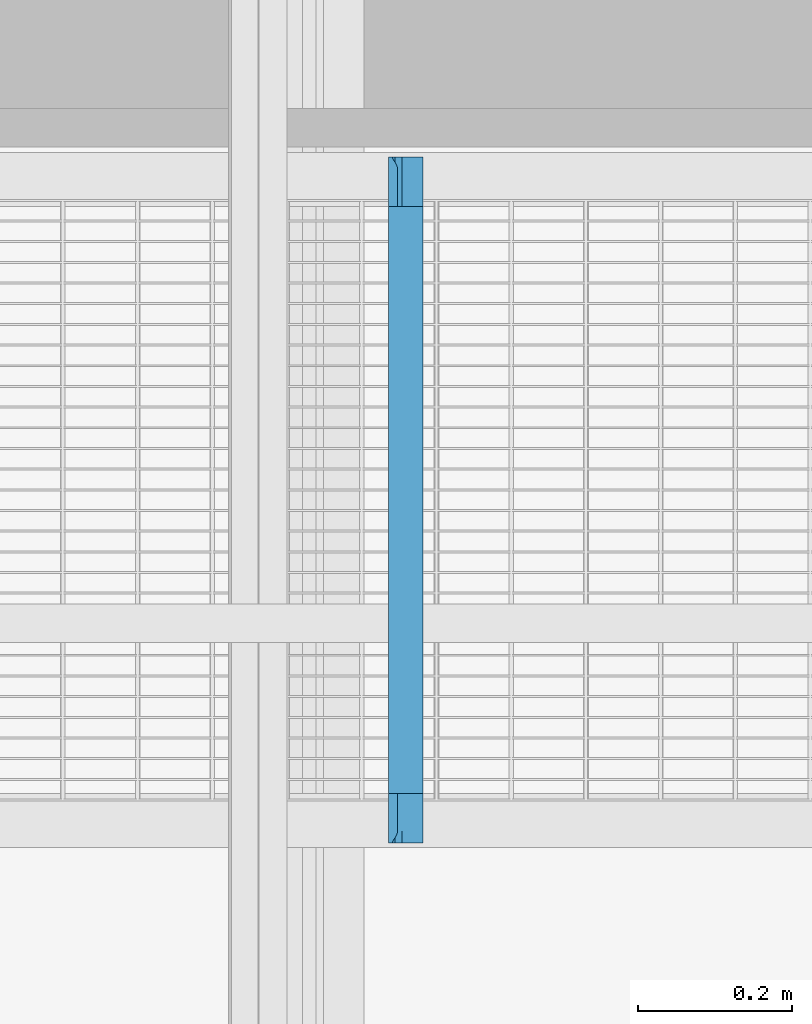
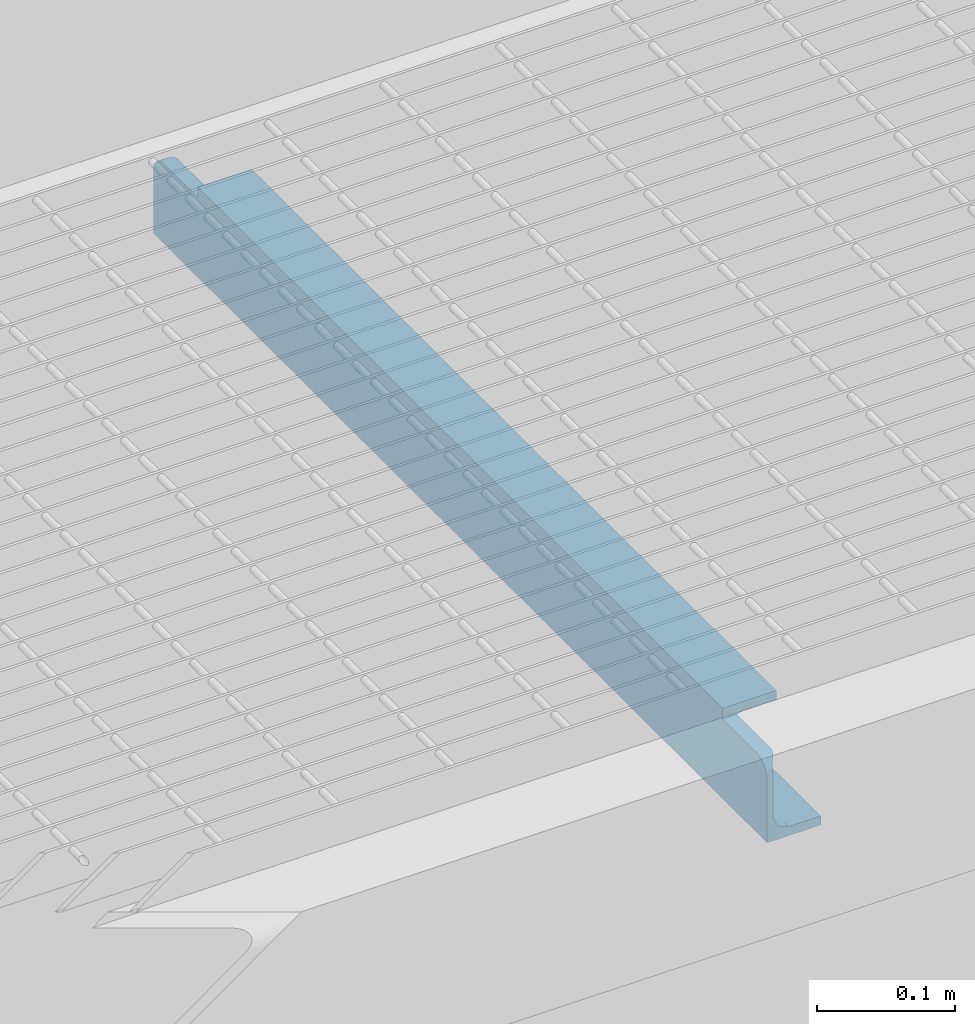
# One storey, part 52 of 75: 1 beam.
"""IFC2X3 building model written with IfcOpenShell, lengths in metres."""

from ifc_helpers import new_model, entity, si_unit, converted_unit, derived_unit, direction, frame, origin, place, context, subcontext, project, spatial, faceted_brep, material, type_object, element, save


model = new_model("IFC2X3")

# Units and contexts
model_context = context("Model", 3, precision=1e-05, world=origin(), true_north=direction((6.12303176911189e-17, 1.0)))
body_context = subcontext(model_context, "Body", "Model", "MODEL_VIEW")
ifc_project = project(units=[si_unit("LENGTHUNIT", "METRE"), si_unit("AREAUNIT", "SQUARE_METRE"), si_unit("VOLUMEUNIT", "CUBIC_METRE"), converted_unit("PLANEANGLEUNIT", "DEGREE", entity("IfcRatioMeasure", 0.0174532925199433), si_unit("PLANEANGLEUNIT", "RADIAN"), dimensions=[0, 0, 0, 0, 0, 0, 0]), si_unit("MASSUNIT", "GRAM", prefix="KILO"), derived_unit("MASSDENSITYUNIT", [(si_unit("MASSUNIT", "GRAM", prefix="KILO"), 1), (si_unit("LENGTHUNIT", "METRE"), -3)]), derived_unit("MOMENTOFINERTIAUNIT", [(si_unit("LENGTHUNIT", "METRE"), 4)]), si_unit("TIMEUNIT", "SECOND"), si_unit("FREQUENCYUNIT", "HERTZ"), si_unit("THERMODYNAMICTEMPERATUREUNIT", "DEGREE_CELSIUS"), derived_unit("THERMALTRANSMITTANCEUNIT", [(si_unit("MASSUNIT", "GRAM", prefix="KILO"), 1), (si_unit("THERMODYNAMICTEMPERATUREUNIT", "KELVIN"), -1), (si_unit("TIMEUNIT", "SECOND"), -3)]), derived_unit("VOLUMETRICFLOWRATEUNIT", [(si_unit("LENGTHUNIT", "METRE"), 3), (si_unit("TIMEUNIT", "SECOND"), -1)]), si_unit("ELECTRICCURRENTUNIT", "AMPERE"), si_unit("ELECTRICVOLTAGEUNIT", "VOLT"), si_unit("POWERUNIT", "WATT"), si_unit("FORCEUNIT", "NEWTON", prefix="KILO"), si_unit("ILLUMINANCEUNIT", "LUX"), si_unit("LUMINOUSFLUXUNIT", "LUMEN"), si_unit("LUMINOUSINTENSITYUNIT", "CANDELA"), derived_unit("USERDEFINED", [(si_unit("MASSUNIT", "GRAM", prefix="KILO"), -1), (si_unit("LENGTHUNIT", "METRE"), -2), (si_unit("TIMEUNIT", "SECOND"), 3), (si_unit("LUMINOUSFLUXUNIT", "LUMEN"), 1)]), derived_unit("LINEARVELOCITYUNIT", [(si_unit("LENGTHUNIT", "METRE"), 1), (si_unit("TIMEUNIT", "SECOND"), -1)]), si_unit("PRESSUREUNIT", "PASCAL"), derived_unit("USERDEFINED", [(si_unit("LENGTHUNIT", "METRE"), -2), (si_unit("MASSUNIT", "GRAM", prefix="KILO"), 1), (si_unit("TIMEUNIT", "SECOND"), -2)]), derived_unit("LINEARFORCEUNIT", [(si_unit("MASSUNIT", "GRAM", prefix="KILO"), 1), (si_unit("LENGTHUNIT", "METRE"), 1), (si_unit("TIMEUNIT", "SECOND"), -2), (si_unit("LENGTHUNIT", "METRE"), -1)]), derived_unit("PLANARFORCEUNIT", [(si_unit("MASSUNIT", "GRAM", prefix="KILO"), 1), (si_unit("LENGTHUNIT", "METRE"), 1), (si_unit("TIMEUNIT", "SECOND"), -2), (si_unit("LENGTHUNIT", "METRE"), -2)])], contexts=[model_context])

# Site, building, storey
site_placement = place(None, origin())
site = spatial("IfcSite", under=ifc_project, at=site_placement, Name="Superficie", CompositionType="ELEMENT")
building_placement = place(site_placement, origin())
building = spatial("IfcBuilding", under=site, at=building_placement, Name="Telegestiones", CompositionType="ELEMENT")
storey_placement = place(building_placement, origin())
storey = spatial("IfcBuildingStorey", under=building, at=storey_placement, Name="Nivel 0_NPT", CompositionType="ELEMENT", Elevation=0.0)

# Beam
ifc_material = material(Name="Metal - Acero - 345 MPa")
beam_type = type_object("IfcBeamType", Name="U-Canales de ala paralela:UAP80", PredefinedType="NOTDEFINED")
beam_placement = place(storey_placement, frame((12.7567897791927, 12.7898119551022, 17.78), z_axis=(0.0, 0.0, 1.0), x_axis=(0.0, -1.0, 0.0)))
element("IfcBeam", 1, at=beam_placement, inside=storey, type_object=beam_type, material=ifc_material, Name="U-Canales de ala paralela:UAP80", ObjectType="U-Canales de ala paralela:UAP80", context=body_context, shape_type="Brep", body=[
    faceted_brep([(-0.00159527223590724, 0.0450000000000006, 0.0), (-0.00159527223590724, 0.0450000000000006, 0.00799999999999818), (-0.00159527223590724, 0.0180000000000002, 0.00799999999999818), (-0.00159527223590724, 0.0140667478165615, 0.00962920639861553), (-0.00159527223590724, 0.0114371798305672, 0.0107184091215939), (-0.00159527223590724, 0.00880761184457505, 0.0118076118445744), (-0.00159527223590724, 0.00785570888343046, 0.014105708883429), (-0.00159527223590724, 0.00690380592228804, 0.0164038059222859), (-0.0015952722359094, 0.00595190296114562, 0.0187019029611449), (-0.00159527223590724, 0.00500000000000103, 0.0209999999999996), (-0.00159527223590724, 0.00500000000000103, 0.0579413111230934), (-0.00159527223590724, 0.0, 0.0579413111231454), (-0.00159527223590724, 0.0, 0.0), (-0.890595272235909, 0.0180000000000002, 0.00799999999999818), (-0.890595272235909, 0.0450000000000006, 0.00799999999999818), (-0.890595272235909, 0.0450000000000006, 0.0), (-0.890595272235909, 0.0, 0.0), (-0.890595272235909, 0.0, 0.0579413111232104), (-0.890595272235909, 0.00500000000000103, 0.0579413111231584), (-0.890595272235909, 0.00500000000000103, 0.0209999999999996), (-0.890595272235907, 0.00581460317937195, 0.0190333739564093), (-0.890595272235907, 0.00690380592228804, 0.0164038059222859), (-0.890595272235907, 0.00785570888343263, 0.0141057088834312), (-0.890595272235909, 0.00880761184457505, 0.0118076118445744), (-0.890595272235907, 0.0111057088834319, 0.0108557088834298), (-0.890595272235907, 0.0134038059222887, 0.00990380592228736), (-0.890595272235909, 0.0160333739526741, 0.00881460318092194), (-0.82629527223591, 0.0, 0.0799999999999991), (-0.0658952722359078, 0.0, 0.0799999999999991), (-0.0658952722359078, 0.0450000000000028, 0.0799999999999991), (-0.82629527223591, 0.0450000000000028, 0.0799999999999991), (-0.0658952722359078, 0.0450000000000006, 0.0719999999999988), (-0.82629527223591, 0.0450000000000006, 0.0719999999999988), (-0.0658952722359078, 0.0180000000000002, 0.0719999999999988), (-0.128842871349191, 0.0180000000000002, 0.0719999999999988), (-0.194304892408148, 0.0180000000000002, 0.0719999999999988), (-0.322714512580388, 0.0180000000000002, 0.0719999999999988), (-0.448609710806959, 0.0180000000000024, 0.072000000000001), (-0.574504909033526, 0.0180000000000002, 0.072000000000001), (-0.700400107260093, 0.0180000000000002, 0.0719999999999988), (-0.763347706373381, 0.0180000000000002, 0.0719999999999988), (-0.82629527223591, 0.0180000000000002, 0.0719999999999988), (-0.125338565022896, 0.00873473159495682, 0.0681189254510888), (-0.00990097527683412, 0.00971902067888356, 0.0690212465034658), (-0.00722207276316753, 0.00805140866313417, 0.0673681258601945), (-0.544296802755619, 0.00667192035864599, 0.0653776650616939), (-0.463738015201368, 0.00590908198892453, 0.0637759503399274), (-0.537050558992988, 0.00560250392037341, 0.0629117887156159), (-0.792641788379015, 0.00525335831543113, 0.0615540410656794), (-0.794133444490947, 0.00500000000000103, 0.0589999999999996), (-0.890381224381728, 0.00500000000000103, 0.0589999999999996), (-0.0658952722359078, 0.0119378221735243, 0.0705000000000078), (-0.13867918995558, 0.0108749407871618, 0.0698735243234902), (-0.289684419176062, 0.00818591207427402, 0.0675254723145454), (-0.235689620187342, 0.00983678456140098, 0.0691174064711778), (-0.221438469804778, 0.00711297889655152, 0.0661044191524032), (-0.828358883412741, 0.00588467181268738, 0.0637136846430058), (-0.754190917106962, 0.0058648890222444, 0.063662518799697), (-0.122570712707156, 0.00586898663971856, 0.0636731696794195), (-0.00489743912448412, 0.00653775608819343, 0.0651332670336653), (-0.00303111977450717, 0.00542889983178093, 0.0623117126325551), (-0.139747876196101, 0.0133736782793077, 0.0711489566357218), (-0.0658952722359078, 0.0148775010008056, 0.0716194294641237), (-0.82629527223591, 0.0148775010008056, 0.0716194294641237), (-0.725006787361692, 0.007054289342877, 0.0660136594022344), (-0.806159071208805, 0.007190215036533, 0.066221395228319), (-0.751188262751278, 0.00871967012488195, 0.0681035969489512), (-0.821741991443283, 0.00878771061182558, 0.0681724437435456), (-0.731873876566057, 0.0157137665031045, 0.0717973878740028), (-0.656388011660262, 0.0158751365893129, 0.0718251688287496), (-0.887293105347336, 0.00653775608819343, 0.0651332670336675), (-0.884968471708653, 0.00805140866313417, 0.0673681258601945), (-0.153427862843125, 0.00681728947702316, 0.0656292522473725), (-0.0851009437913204, 0.0070865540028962, 0.0660637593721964), (-0.223870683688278, 0.00557806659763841, 0.0628334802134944), (-0.324805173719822, 0.00685931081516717, 0.065699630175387), (-0.889159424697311, 0.00542889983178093, 0.0623117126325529), (-0.0163952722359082, 0.01193782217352, 0.0705000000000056), (-0.0129474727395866, 0.0112305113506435, 0.0700983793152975), (-0.87579527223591, 0.0119378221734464, 0.0704999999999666), (-0.82629527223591, 0.0119378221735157, 0.0705000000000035), (-0.879243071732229, 0.0112305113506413, 0.0700983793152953), (-0.399380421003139, 0.00536884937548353, 0.0620747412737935), (-0.392844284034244, 0.00621995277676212, 0.0644982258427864), (-0.226457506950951, 0.0133736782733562, 0.0711489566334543), (-0.161573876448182, 0.0157225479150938, 0.0717989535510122), (-0.753454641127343, 0.0133736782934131, 0.0711489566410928), (-0.667605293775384, 0.0133736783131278, 0.0711489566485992), (-0.710529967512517, 0.0108989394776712, 0.069889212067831), (-0.882289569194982, 0.00971902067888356, 0.0690212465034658), (-0.390878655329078, 0.0147556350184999, 0.0715886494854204), (-0.511557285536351, 0.0147219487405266, 0.0715799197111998), (-0.447031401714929, 0.0116878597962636, 0.0703647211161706), (-0.155170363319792, 0.00522625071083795, 0.0614148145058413), (-0.0800317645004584, 0.00520855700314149, 0.0613192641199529), (-0.127704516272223, 0.00500000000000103, 0.0589999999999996), (-0.717894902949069, 0.00523967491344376, 0.0614847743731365), (-0.664463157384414, 0.00890351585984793, 0.0682873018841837), (-0.313627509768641, 0.0152996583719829, 0.0717164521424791), (-0.236434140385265, 0.0158580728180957, 0.0718223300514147), (-0.566912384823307, 0.011307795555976, 0.0701451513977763), (-0.44972530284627, 0.007164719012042, 0.0661830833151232), (-0.330812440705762, 0.01176120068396, 0.0704051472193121), (-0.00180932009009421, 0.00500000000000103, 0.0589999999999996), (-0.374471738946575, 0.00795566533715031, 0.067252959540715), (-0.33966151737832, 0.00960203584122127, 0.0689234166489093), (-0.495596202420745, 0.00856943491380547, 0.0679478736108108), (-0.41947188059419, 0.00955595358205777, 0.0688842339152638), (-0.591250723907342, 0.0142535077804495, 0.0714484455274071), (-0.637492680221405, 0.0107328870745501, 0.0697791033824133), (-0.580926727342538, 0.00847032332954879, 0.0678422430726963), (-0.614751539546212, 0.00554163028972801, 0.0627133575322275), (-0.479182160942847, 0.00521908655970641, 0.0613766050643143), (-0.636794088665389, 0.00709380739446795, 0.0660749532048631), (-0.601637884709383, 0.00500000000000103, 0.0589999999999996), (-0.697885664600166, 0.00500000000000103, 0.0589999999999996), (-0.682036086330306, 0.00583156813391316, 0.0635748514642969), (-0.5053901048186, 0.00500000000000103, 0.0589999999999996), (-0.327009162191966, 0.00576169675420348, 0.0633845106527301), (-0.253599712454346, 0.00500000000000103, 0.0589999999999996), (-0.379494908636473, 0.00500000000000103, 0.0589999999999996), (-0.890497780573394, 0.00500000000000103, 0.0584725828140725), (-0.00169276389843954, 0.00500000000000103, 0.0584725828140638), (-0.127490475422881, 0.00500000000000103, 0.0209999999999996), (-0.253385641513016, 0.00500000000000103, 0.0209999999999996), (-0.349740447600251, 0.00500000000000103, 0.0209999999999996), (-0.44609525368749, 0.00500000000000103, 0.0209999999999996), (-0.557220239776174, 0.00500000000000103, 0.0209999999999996), (-0.668345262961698, 0.00500000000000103, 0.0209999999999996), (-0.764700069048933, 0.00500000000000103, 0.0209999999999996), (-0.0794870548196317, 0.00972190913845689, 0.0109763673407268), (-0.435997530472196, 0.00556213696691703, 0.0172185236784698), (-0.373294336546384, 0.00522987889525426, 0.0185660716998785), (-0.639580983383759, 0.0053531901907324, 0.0179903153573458), (-0.632632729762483, 0.00637757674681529, 0.0151759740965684), (-0.716522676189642, 0.00574745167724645, 0.0166554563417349), (-0.449211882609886, 0.012354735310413, 0.00928970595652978), (-0.320388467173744, 0.0113965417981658, 0.00980203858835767), (-0.338837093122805, 0.0147439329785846, 0.00841437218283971), (-0.524503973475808, 0.0144490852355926, 0.00849436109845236), (-0.512909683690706, 0.0180000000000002, 0.00799999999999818), (-0.601869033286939, 0.0154448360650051, 0.00825358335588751), (-0.403832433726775, 0.00939162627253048, 0.011258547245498), (-0.673005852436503, 0.0104857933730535, 0.0103916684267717), (-0.573219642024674, 0.0105107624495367, 0.0103740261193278), (-0.60838277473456, 0.0127204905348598, 0.00912032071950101), (-0.557220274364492, 0.00560622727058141, 0.0170764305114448), (-0.300537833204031, 0.00846054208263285, 0.0121683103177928), (-0.726955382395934, 0.0139509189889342, 0.00864666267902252), (-0.764700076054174, 0.0180000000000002, 0.00800000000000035), (-0.81361932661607, 0.0144028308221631, 0.00850758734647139), (-0.207094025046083, 0.00538630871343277, 0.0178544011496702), (-0.301563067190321, 0.00537533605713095, 0.017898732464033), (-0.349740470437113, 0.00647967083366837, 0.0149765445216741), (-0.150052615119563, 0.0110865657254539, 0.00999071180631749), (-0.0758239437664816, 0.0123642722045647, 0.00928511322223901), (-0.153439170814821, 0.00630537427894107, 0.0153223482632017), (-0.0880955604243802, 0.00767465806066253, 0.0131014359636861), (-0.183268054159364, 0.0083334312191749, 0.0123076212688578), (-0.236059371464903, 0.0108404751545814, 0.0101491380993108), (-0.118743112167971, 0.00535692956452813, 0.0179746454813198), (-0.0782307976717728, 0.00607386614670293, 0.0158262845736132), (-0.251391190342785, 0.0134664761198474, 0.00881611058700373), (-0.0763306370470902, 0.0152252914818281, 0.00829956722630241), (-0.16089768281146, 0.0144821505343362, 0.00848501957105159), (-0.12749046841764, 0.0180000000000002, 0.00800000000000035), (-0.19430487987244, 0.0179999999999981, 0.00799999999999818), (-0.290659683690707, 0.0179999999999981, 0.00799999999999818), (-0.387014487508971, 0.0179999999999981, 0.00800000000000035), (-0.274648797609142, 0.0156603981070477, 0.00821226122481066), (-0.428012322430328, 0.0152285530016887, 0.00829885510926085), (-0.512909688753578, 0.00904802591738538, 0.0115733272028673), (-0.544443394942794, 0.00701878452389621, 0.0140420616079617), (-0.607082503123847, 0.00857249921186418, 0.0120488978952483), (-0.785766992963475, 0.00998354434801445, 0.0107659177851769), (-0.700833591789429, 0.00807841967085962, 0.0125998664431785), (-0.638804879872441, 0.0180000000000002, 0.00799999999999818), (-0.802846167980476, 0.00747715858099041, 0.0133665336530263), (-0.80717594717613, 0.00550758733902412, 0.0174028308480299), (-0.447339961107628, 0.00719760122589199, 0.0137675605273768), (-0.251589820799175, 0.00639123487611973, 0.0151487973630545), (-0.369128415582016, 0.00783049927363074, 0.0129017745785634), (-0.698574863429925, 0.00670885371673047, 0.0145571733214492), (-0.821923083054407, 0.0119518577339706, 0.00949261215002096), (-0.0163952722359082, 0.0, 0.0705000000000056), (-0.0658952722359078, 0.0, 0.0705000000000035), (-0.826295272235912, 0.0, 0.0705000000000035), (-0.87579527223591, 0.0, 0.0705000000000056), (-0.879281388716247, 0.0, 0.0700892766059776), (-0.882576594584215, 0.0, 0.0688795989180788), (-0.88550043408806, 0.0, 0.0669372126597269), (-0.887892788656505, 0.0, 0.0643684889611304), (-0.889622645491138, 0.0, 0.0613140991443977), (-0.00256789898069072, 0.0, 0.0613140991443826), (-0.00429775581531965, 0.0, 0.0643684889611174), (-0.006690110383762, 0.0, 0.0669372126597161), (-0.00961394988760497, 0.0, 0.0688795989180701), (-0.0129091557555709, 0.0, 0.0700892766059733)], [[[0, 1, 2, 3, 4, 5, 6, 7, 8, 9, 10, 11, 12]], [[13, 14, 15, 16, 17, 18, 19, 20, 21, 22, 23, 24, 25, 26]], [[27, 28, 29, 30]], [[30, 29, 31, 32]], [[14, 1, 0, 15]], [[32, 31, 33, 34, 35, 36, 37, 38, 39, 40, 41]], [[42, 43, 44]], [[45, 46, 47]], [[48, 49, 50]], [[51, 42, 52]], [[42, 51, 43]], [[53, 54, 55]], [[56, 57, 48]], [[58, 59, 60]], [[51, 61, 62]], [[34, 33, 62]], [[41, 40, 63]], [[64, 65, 66]], [[66, 65, 67]], [[42, 55, 54]], [[68, 39, 69]], [[65, 70, 71]], [[68, 40, 39]], [[72, 73, 58]], [[74, 75, 55]], [[70, 56, 76]], [[77, 78, 51]], [[79, 80, 81]], [[82, 46, 83]], [[52, 61, 51]], [[84, 85, 61]], [[44, 73, 42]], [[86, 87, 88]], [[86, 80, 63]], [[80, 89, 81]], [[37, 36, 90]], [[58, 73, 59]], [[71, 89, 67]], [[91, 90, 92]], [[93, 94, 95]], [[80, 67, 89]], [[48, 57, 96]], [[78, 43, 51]], [[88, 97, 66]], [[98, 36, 99]], [[58, 60, 94]], [[91, 92, 100]], [[46, 101, 83]], [[70, 65, 56]], [[99, 85, 84]], [[57, 65, 64]], [[71, 67, 65]], [[66, 67, 80]], [[54, 102, 84]], [[48, 96, 49]], [[103, 94, 60]], [[53, 104, 105]], [[106, 100, 92]], [[55, 75, 53]], [[92, 90, 102]], [[102, 105, 107]], [[69, 38, 108]], [[38, 37, 91]], [[100, 108, 91]], [[109, 88, 87]], [[105, 104, 107]], [[110, 109, 100]], [[47, 111, 45]], [[45, 110, 106]], [[112, 46, 82]], [[62, 85, 34]], [[54, 84, 52]], [[66, 80, 88]], [[86, 63, 68]], [[86, 88, 80]], [[66, 97, 64]], [[113, 97, 110]], [[97, 88, 109]], [[113, 110, 45]], [[106, 110, 100]], [[114, 115, 111]], [[101, 46, 45]], [[45, 111, 113]], [[57, 116, 96]], [[117, 114, 47]], [[98, 99, 84]], [[37, 90, 91]], [[48, 50, 76]], [[72, 58, 74]], [[61, 52, 84]], [[52, 42, 54]], [[57, 64, 116]], [[113, 64, 97]], [[35, 34, 85]], [[99, 35, 85]], [[61, 85, 62]], [[99, 36, 35]], [[90, 36, 98]], [[68, 69, 87]], [[40, 68, 63]], [[86, 68, 87]], [[87, 69, 108]], [[69, 39, 38]], [[87, 108, 100]], [[91, 108, 38]], [[112, 47, 46]], [[118, 119, 120]], [[57, 56, 65]], [[56, 48, 76]], [[115, 49, 96]], [[96, 111, 115]], [[111, 96, 116]], [[116, 113, 111]], [[113, 116, 64]], [[97, 109, 110]], [[100, 109, 87]], [[74, 119, 118]], [[95, 119, 93]], [[111, 47, 114]], [[117, 47, 112]], [[112, 120, 117]], [[83, 118, 82]], [[82, 120, 112]], [[82, 118, 120]], [[118, 83, 75]], [[101, 107, 104]], [[83, 101, 104]], [[106, 101, 45]], [[59, 73, 44]], [[55, 42, 72]], [[73, 72, 42]], [[55, 72, 74]], [[58, 94, 93]], [[95, 94, 103]], [[93, 74, 58]], [[74, 93, 119]], [[102, 54, 105]], [[104, 53, 75]], [[53, 105, 54]], [[92, 102, 107]], [[107, 106, 92]], [[106, 107, 101]], [[104, 75, 83]], [[74, 118, 75]], [[98, 102, 90]], [[102, 98, 84]], [[19, 18, 121, 50, 49, 115, 114, 117, 120, 119, 95, 103, 122, 10, 9, 123, 124, 125, 126, 127, 128, 129]], [[4, 130, 5]], [[131, 126, 132]], [[133, 134, 135]], [[136, 137, 138]], [[139, 140, 141]], [[142, 137, 136]], [[143, 144, 145]], [[127, 146, 133]], [[137, 142, 147]], [[148, 149, 150]], [[124, 123, 151]], [[152, 153, 132]], [[154, 130, 155]], [[156, 157, 158]], [[137, 147, 159]], [[160, 161, 156]], [[162, 138, 137]], [[162, 137, 159]], [[163, 3, 2]], [[154, 162, 159]], [[3, 163, 155]], [[164, 165, 166]], [[167, 168, 138]], [[166, 169, 164]], [[164, 169, 162]], [[170, 139, 136]], [[136, 144, 171]], [[138, 170, 136]], [[168, 170, 138]], [[172, 171, 173]], [[145, 148, 143]], [[172, 146, 131]], [[128, 135, 129]], [[143, 174, 175]], [[141, 176, 148]], [[174, 23, 177]], [[129, 178, 20]], [[21, 178, 177]], [[20, 178, 21]], [[179, 171, 172]], [[172, 134, 146]], [[142, 171, 179]], [[138, 162, 169]], [[164, 162, 154]], [[159, 158, 154]], [[158, 147, 180]], [[158, 159, 147]], [[181, 142, 179]], [[5, 130, 157]], [[180, 156, 158]], [[147, 142, 181]], [[171, 142, 136]], [[153, 179, 131]], [[172, 131, 179]], [[125, 124, 152]], [[126, 131, 146]], [[180, 152, 151]], [[125, 152, 132]], [[153, 152, 180]], [[153, 180, 147]], [[160, 156, 151]], [[156, 180, 151]], [[161, 6, 157]], [[151, 152, 124]], [[8, 160, 123]], [[123, 160, 151]], [[161, 8, 7, 6]], [[134, 133, 146]], [[173, 134, 172]], [[134, 182, 135]], [[175, 134, 173]], [[175, 173, 143]], [[173, 171, 144]], [[174, 177, 175]], [[176, 149, 148]], [[143, 148, 174]], [[26, 150, 149]], [[183, 24, 174]], [[150, 25, 183]], [[182, 175, 177]], [[22, 21, 177, 23]], [[154, 158, 130]], [[127, 126, 146]], [[133, 135, 128]], [[156, 161, 157]], [[8, 123, 9]], [[20, 19, 129]], [[157, 130, 158]], [[4, 3, 155]], [[155, 163, 164]], [[4, 155, 130]], [[154, 155, 164]], [[163, 165, 164]], [[165, 163, 2]], [[139, 144, 136]], [[170, 168, 140]], [[145, 139, 141]], [[139, 170, 140]], [[173, 144, 143]], [[139, 145, 144]], [[145, 141, 148]], [[176, 141, 140]], [[25, 150, 26]], [[149, 13, 26]], [[174, 148, 183]], [[150, 183, 148]], [[23, 174, 24]], [[183, 25, 24]], [[178, 135, 177]], [[135, 178, 129]], [[169, 167, 138]], [[127, 133, 128]], [[167, 169, 166]], [[181, 153, 147]], [[153, 181, 179]], [[125, 132, 126]], [[131, 132, 153]], [[160, 8, 161]], [[135, 182, 177]], [[182, 134, 175]], [[6, 5, 157]], [[1, 14, 13, 149, 176, 140, 168, 167, 166, 165, 2]], [[15, 0, 12, 16]], [[184, 185, 28, 27, 186, 187, 188, 189, 190, 191, 192, 17, 16, 12, 11, 193, 194, 195, 196, 197]], [[51, 62, 33, 31, 29, 28, 185]], [[51, 185, 184, 77]], [[80, 79, 187, 186]], [[78, 184, 197]], [[43, 197, 196]], [[44, 196, 195]], [[77, 184, 78]], [[78, 197, 43]], [[196, 44, 43]], [[195, 59, 44]], [[60, 194, 193]], [[193, 11, 103]], [[10, 122, 11]], [[60, 59, 194]], [[122, 103, 11]], [[60, 193, 103]], [[194, 59, 195]], [[17, 50, 121]], [[50, 17, 192]], [[50, 192, 76]], [[76, 192, 191]], [[121, 18, 17]], [[70, 76, 191]], [[191, 190, 70]], [[71, 190, 189]], [[89, 189, 188]], [[81, 188, 187]], [[71, 189, 89]], [[81, 89, 188]], [[79, 81, 187]], [[190, 71, 70]], [[80, 186, 27, 30, 32, 41, 63]]]),
])

save(model, "model.ifc")
